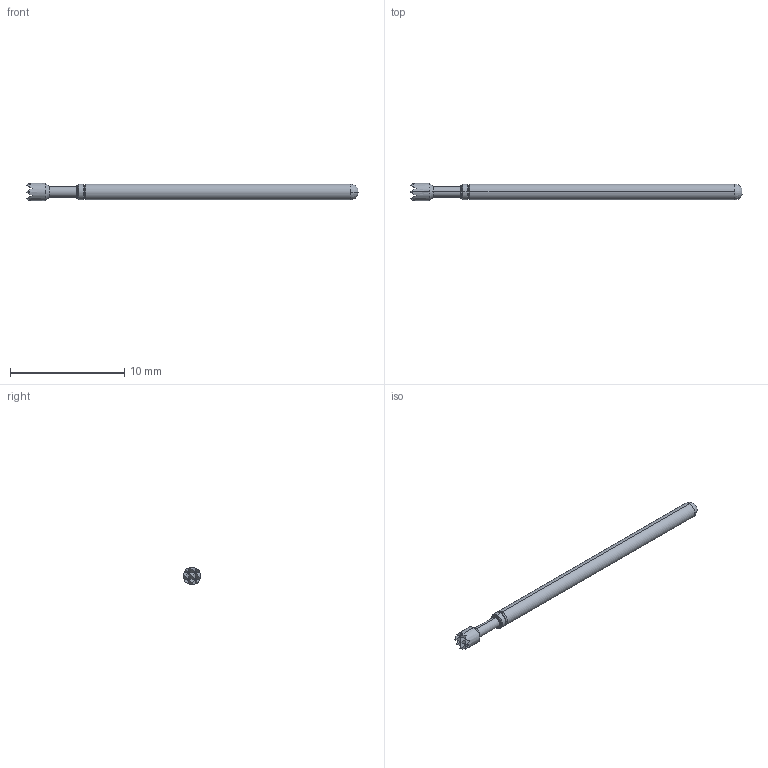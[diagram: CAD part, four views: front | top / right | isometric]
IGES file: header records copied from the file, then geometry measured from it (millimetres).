
Start section: SolidWorks IGES file using analytic representation for surfaces
Global section: file name: Z:\probe solid model mockups\Solidworks models\LTP-25\LTP-25H RECD.IGS; native system: SolidWorks 2006 by SolidWorks Corporation; preprocessor: SolidWorks 2006 by SolidWorks Corporation; author: tsakatani; date: 071214.143110; units: inch
Bounding box: 29.08 x 1.52 x 1.52 mm (x, y, z)
Surface area: 126.1 mm2 (no closed solid volume)
Topology: 0 solids, 0 shells, 50 faces, 248 edges, 248 vertices
Faces by surface type: bspline 34, revolution 16
